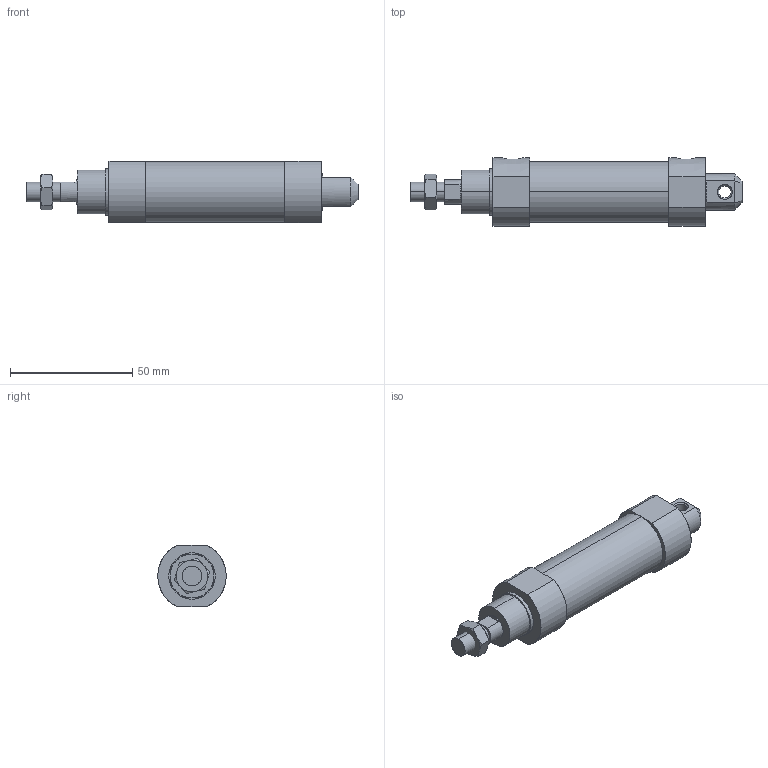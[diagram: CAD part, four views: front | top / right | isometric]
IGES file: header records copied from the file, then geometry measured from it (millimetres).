
Start section: SolidWorks IGES file using analytic representation for surfaces
Global section: file name: C:\Users\Toshiba\Desktop\J#2-20-25-C.IGS; native system: SolidWorks 2014; preprocessor: SolidWorks 2014; author: Toshiba; date: 160308.145414; units: millimetre
Bounding box: 136 x 28 x 25 mm (x, y, z)
Surface area: 11768.2 mm2 (no closed solid volume)
Topology: 0 solids, 0 shells, 78 faces, 1284 edges, 1284 vertices
Faces by surface type: bspline 48, revolution 30
